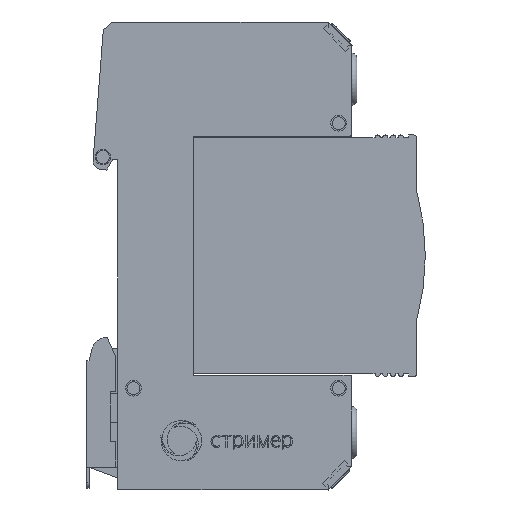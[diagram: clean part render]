
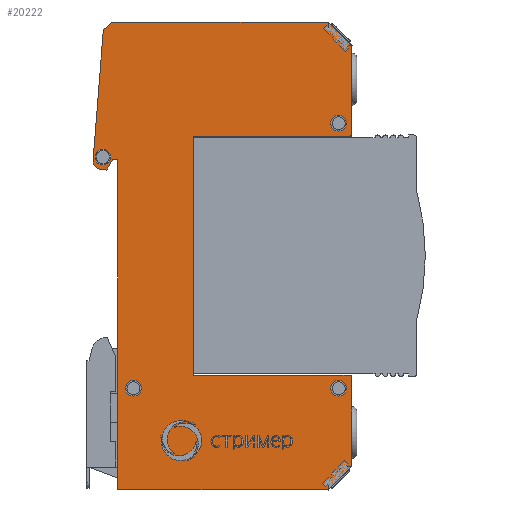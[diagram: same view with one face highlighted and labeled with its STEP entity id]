
A CAD part, front view. The second image highlights one B-rep face of the part: STEP entity #20222.
In plain terms, the highlighted planar face has unit normal (0, -1, 0).
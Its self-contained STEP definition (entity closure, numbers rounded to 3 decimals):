
#18150=CARTESIAN_POINT('',(30.,-9.,-23.));
#18151=VERTEX_POINT('',#18150);
#18189=CARTESIAN_POINT('',(0.,-9.,-23.));
#18190=VERTEX_POINT('',#18189);
#18197=CARTESIAN_POINT('',(30.,-9.,-23.));
#18198=DIRECTION('',(-1.,0.,0.));
#18199=VECTOR('',#18198,30.);
#18200=LINE('',#18197,#18199);
#18201=EDGE_CURVE('',#18151,#18190,#18200,.T.);
#18245=CARTESIAN_POINT('',(30.,-9.,23.));
#18246=VERTEX_POINT('',#18245);
#18253=CARTESIAN_POINT('',(0.,-9.,23.));
#18254=VERTEX_POINT('',#18253);
#18255=CARTESIAN_POINT('',(0.,-9.,23.));
#18256=DIRECTION('',(1.,0.,0.));
#18257=VECTOR('',#18256,30.);
#18258=LINE('',#18255,#18257);
#18259=EDGE_CURVE('',#18254,#18246,#18258,.T.);
#18384=CARTESIAN_POINT('',(-14.5,-9.,-45.));
#18385=VERTEX_POINT('',#18384);
#18386=CARTESIAN_POINT('',(26.,-9.,-45.));
#18387=VERTEX_POINT('',#18386);
#18388=CARTESIAN_POINT('',(-14.5,-9.,-45.));
#18389=DIRECTION('',(1.,0.,-0.));
#18390=VECTOR('',#18389,40.5);
#18391=LINE('',#18388,#18390);
#18392=EDGE_CURVE('',#18385,#18387,#18391,.T.);
#19054=CARTESIAN_POINT('',(-14.5,-9.,18.5));
#19055=VERTEX_POINT('',#19054);
#19056=CARTESIAN_POINT('',(-14.5,-9.,18.5));
#19057=DIRECTION('',(0.,0.,-1.));
#19058=VECTOR('',#19057,63.5);
#19059=LINE('',#19056,#19058);
#19060=EDGE_CURVE('',#19055,#18385,#19059,.T.);
#19255=CARTESIAN_POINT('',(-15.5,-9.,45.));
#19256=VERTEX_POINT('',#19255);
#19257=CARTESIAN_POINT('',(-17.29,-9.,43.498));
#19258=VERTEX_POINT('',#19257);
#19259=CARTESIAN_POINT('',(-15.5,-9.,45.));
#19260=DIRECTION('',(-0.766,0.,-0.643));
#19261=VECTOR('',#19260,2.337);
#19262=LINE('',#19259,#19261);
#19263=EDGE_CURVE('',#19256,#19258,#19262,.T.);
#19295=CARTESIAN_POINT('',(-19.273,-9.,18.306));
#19296=VERTEX_POINT('',#19295);
#19297=CARTESIAN_POINT('',(-17.29,-9.,43.498));
#19298=DIRECTION('',(-0.078,0.,-0.997));
#19299=VECTOR('',#19298,25.27);
#19300=LINE('',#19297,#19299);
#19301=EDGE_CURVE('',#19258,#19296,#19300,.T.);
#19326=CARTESIAN_POINT('',(-17.999,-9.,16.704));
#19327=VERTEX_POINT('',#19326);
#19328=CARTESIAN_POINT('',(-17.777,-9.,18.188));
#19329=DIRECTION('',(0.,-1.,0.));
#19330=DIRECTION('',(0.,0.,1.));
#19331=AXIS2_PLACEMENT_3D('',#19328,#19329,#19330);
#19332=CIRCLE('',#19331,1.5);
#19333=EDGE_CURVE('',#19296,#19327,#19332,.T.);
#19359=CARTESIAN_POINT('',(-16.632,-9.,16.5));
#19360=VERTEX_POINT('',#19359);
#19361=CARTESIAN_POINT('',(-17.999,-9.,16.704));
#19362=DIRECTION('',(0.989,0.,-0.148));
#19363=VECTOR('',#19362,1.383);
#19364=LINE('',#19361,#19363);
#19365=EDGE_CURVE('',#19327,#19360,#19364,.T.);
#19390=CARTESIAN_POINT('',(-15.5,-9.,18.5));
#19391=VERTEX_POINT('',#19390);
#19392=CARTESIAN_POINT('',(-16.632,-9.,16.5));
#19393=DIRECTION('',(0.492,0.,0.87));
#19394=VECTOR('',#19393,2.298);
#19395=LINE('',#19392,#19394);
#19396=EDGE_CURVE('',#19360,#19391,#19395,.T.);
#19421=CARTESIAN_POINT('',(-15.5,-9.,18.5));
#19422=DIRECTION('',(1.,0.,0.));
#19423=VECTOR('',#19422,1.);
#19424=LINE('',#19421,#19423);
#19425=EDGE_CURVE('',#19391,#19055,#19424,.T.);
#19443=CARTESIAN_POINT('',(30.5,-9.,-40.5));
#19444=VERTEX_POINT('',#19443);
#19445=CARTESIAN_POINT('',(26.,-9.,-45.));
#19446=DIRECTION('',(0.707,0.,0.707));
#19447=VECTOR('',#19446,6.364);
#19448=LINE('',#19445,#19447);
#19449=EDGE_CURVE('',#18387,#19444,#19448,.T.);
#19498=CARTESIAN_POINT('',(30.5,-9.,-23.5));
#19499=VERTEX_POINT('',#19498);
#19506=CARTESIAN_POINT('',(30.5,-9.,-40.5));
#19507=DIRECTION('',(0.,0.,1.));
#19508=VECTOR('',#19507,17.);
#19509=LINE('',#19506,#19508);
#19510=EDGE_CURVE('',#19444,#19499,#19509,.T.);
#19556=CARTESIAN_POINT('',(30.,-9.,-23.5));
#19557=DIRECTION('',(0.,-1.,0.));
#19558=DIRECTION('',(0.,0.,1.));
#19559=AXIS2_PLACEMENT_3D('',#19556,#19557,#19558);
#19560=CIRCLE('',#19559,0.5);
#19561=EDGE_CURVE('',#19499,#18151,#19560,.T.);
#19572=CARTESIAN_POINT('',(0.,-9.,-23.));
#19573=DIRECTION('',(0.,0.,1.));
#19574=VECTOR('',#19573,46.);
#19575=LINE('',#19572,#19574);
#19576=EDGE_CURVE('',#18190,#18254,#19575,.T.);
#19603=CARTESIAN_POINT('',(30.5,-9.,23.5));
#19604=VERTEX_POINT('',#19603);
#19611=CARTESIAN_POINT('',(30.,-9.,23.5));
#19612=DIRECTION('',(0.,-1.,0.));
#19613=DIRECTION('',(0.,0.,1.));
#19614=AXIS2_PLACEMENT_3D('',#19611,#19612,#19613);
#19615=CIRCLE('',#19614,0.5);
#19616=EDGE_CURVE('',#18246,#19604,#19615,.T.);
#19644=CARTESIAN_POINT('',(30.5,-9.,40.5));
#19645=VERTEX_POINT('',#19644);
#19652=CARTESIAN_POINT('',(30.5,-9.,23.5));
#19653=DIRECTION('',(0.,0.,1.));
#19654=VECTOR('',#19653,17.);
#19655=LINE('',#19652,#19654);
#19656=EDGE_CURVE('',#19604,#19645,#19655,.T.);
#19701=CARTESIAN_POINT('',(26.,-9.,45.));
#19702=VERTEX_POINT('',#19701);
#19703=CARTESIAN_POINT('',(30.5,-9.,40.5));
#19704=DIRECTION('',(-0.707,0.,0.707));
#19705=VECTOR('',#19704,6.364);
#19706=LINE('',#19703,#19705);
#19707=EDGE_CURVE('',#19645,#19702,#19706,.T.);
#19732=CARTESIAN_POINT('',(-17.38,-9.,17.5));
#19733=VERTEX_POINT('',#19732);
#19742=CARTESIAN_POINT('',(-18.88,-9.,19.));
#19743=VERTEX_POINT('',#19742);
#19744=CARTESIAN_POINT('',(-17.38,-9.,19.));
#19745=DIRECTION('',(0.,-1.,0.));
#19746=DIRECTION('',(-1.,0.,0.));
#19747=AXIS2_PLACEMENT_3D('',#19744,#19745,#19746);
#19748=CIRCLE('',#19747,1.5);
#19749=EDGE_CURVE('',#19733,#19743,#19748,.T.);
#19774=CARTESIAN_POINT('',(28.,-9.,24.));
#19775=VERTEX_POINT('',#19774);
#19784=CARTESIAN_POINT('',(26.5,-9.,25.5));
#19785=VERTEX_POINT('',#19784);
#19786=CARTESIAN_POINT('',(28.,-9.,25.5));
#19787=DIRECTION('',(0.,-1.,0.));
#19788=DIRECTION('',(-1.,0.,0.));
#19789=AXIS2_PLACEMENT_3D('',#19786,#19787,#19788);
#19790=CIRCLE('',#19789,1.5);
#19791=EDGE_CURVE('',#19775,#19785,#19790,.T.);
#19852=CARTESIAN_POINT('',(-11.5,-9.,-27.));
#19853=VERTEX_POINT('',#19852);
#19862=CARTESIAN_POINT('',(-13.,-9.,-25.5));
#19863=VERTEX_POINT('',#19862);
#19864=CARTESIAN_POINT('',(-11.5,-9.,-25.5));
#19865=DIRECTION('',(0.,-1.,0.));
#19866=DIRECTION('',(-1.,0.,0.));
#19867=AXIS2_PLACEMENT_3D('',#19864,#19865,#19866);
#19868=CIRCLE('',#19867,1.5);
#19869=EDGE_CURVE('',#19853,#19863,#19868,.T.);
#19894=CARTESIAN_POINT('',(28.,-9.,-27.));
#19895=VERTEX_POINT('',#19894);
#19904=CARTESIAN_POINT('',(26.5,-9.,-25.5));
#19905=VERTEX_POINT('',#19904);
#19906=CARTESIAN_POINT('',(28.,-9.,-25.5));
#19907=DIRECTION('',(0.,-1.,0.));
#19908=DIRECTION('',(-1.,0.,0.));
#19909=AXIS2_PLACEMENT_3D('',#19906,#19907,#19908);
#19910=CIRCLE('',#19909,1.5);
#19911=EDGE_CURVE('',#19895,#19905,#19910,.T.);
#20074=CARTESIAN_POINT('',(26.,-9.,45.));
#20075=DIRECTION('',(-1.,0.,0.));
#20076=VECTOR('',#20075,41.5);
#20077=LINE('',#20074,#20076);
#20078=EDGE_CURVE('',#19702,#19256,#20077,.T.);
#20157=CARTESIAN_POINT('',(0.,-9.,0.));
#20158=DIRECTION('',(0.,-1.,0.));
#20159=DIRECTION('',(0.,0.,1.));
#20160=AXIS2_PLACEMENT_3D('',#20157,#20158,#20159);
#20161=PLANE('',#20160);
#20162=ORIENTED_EDGE('',*,*,#19911,.F.);
#20163=CARTESIAN_POINT('',(28.,-9.,-25.5));
#20164=DIRECTION('',(0.,-1.,0.));
#20165=DIRECTION('',(-1.,0.,0.));
#20166=AXIS2_PLACEMENT_3D('',#20163,#20164,#20165);
#20167=CIRCLE('',#20166,1.5);
#20168=EDGE_CURVE('',#19905,#19895,#20167,.T.);
#20169=ORIENTED_EDGE('',*,*,#20168,.F.);
#20170=EDGE_LOOP('',(#20162,#20169));
#20171=FACE_BOUND('',#20170,.T.);
#20172=ORIENTED_EDGE('',*,*,#19869,.F.);
#20173=CARTESIAN_POINT('',(-11.5,-9.,-25.5));
#20174=DIRECTION('',(0.,-1.,0.));
#20175=DIRECTION('',(-1.,0.,0.));
#20176=AXIS2_PLACEMENT_3D('',#20173,#20174,#20175);
#20177=CIRCLE('',#20176,1.5);
#20178=EDGE_CURVE('',#19863,#19853,#20177,.T.);
#20179=ORIENTED_EDGE('',*,*,#20178,.F.);
#20180=EDGE_LOOP('',(#20172,#20179));
#20181=FACE_BOUND('',#20180,.T.);
#20182=ORIENTED_EDGE('',*,*,#19791,.F.);
#20183=CARTESIAN_POINT('',(28.,-9.,25.5));
#20184=DIRECTION('',(0.,-1.,0.));
#20185=DIRECTION('',(-1.,0.,0.));
#20186=AXIS2_PLACEMENT_3D('',#20183,#20184,#20185);
#20187=CIRCLE('',#20186,1.5);
#20188=EDGE_CURVE('',#19785,#19775,#20187,.T.);
#20189=ORIENTED_EDGE('',*,*,#20188,.F.);
#20190=EDGE_LOOP('',(#20182,#20189));
#20191=FACE_BOUND('',#20190,.T.);
#20192=ORIENTED_EDGE('',*,*,#19749,.F.);
#20193=CARTESIAN_POINT('',(-17.38,-9.,19.));
#20194=DIRECTION('',(0.,-1.,0.));
#20195=DIRECTION('',(-1.,0.,0.));
#20196=AXIS2_PLACEMENT_3D('',#20193,#20194,#20195);
#20197=CIRCLE('',#20196,1.5);
#20198=EDGE_CURVE('',#19743,#19733,#20197,.T.);
#20199=ORIENTED_EDGE('',*,*,#20198,.F.);
#20200=EDGE_LOOP('',(#20192,#20199));
#20201=FACE_BOUND('',#20200,.T.);
#20202=ORIENTED_EDGE('',*,*,#19263,.T.);
#20203=ORIENTED_EDGE('',*,*,#19301,.T.);
#20204=ORIENTED_EDGE('',*,*,#19333,.T.);
#20205=ORIENTED_EDGE('',*,*,#19365,.T.);
#20206=ORIENTED_EDGE('',*,*,#19396,.T.);
#20207=ORIENTED_EDGE('',*,*,#19425,.T.);
#20208=ORIENTED_EDGE('',*,*,#19060,.T.);
#20209=ORIENTED_EDGE('',*,*,#18392,.T.);
#20210=ORIENTED_EDGE('',*,*,#19449,.T.);
#20211=ORIENTED_EDGE('',*,*,#19510,.T.);
#20212=ORIENTED_EDGE('',*,*,#19561,.T.);
#20213=ORIENTED_EDGE('',*,*,#18201,.T.);
#20214=ORIENTED_EDGE('',*,*,#19576,.T.);
#20215=ORIENTED_EDGE('',*,*,#18259,.T.);
#20216=ORIENTED_EDGE('',*,*,#19616,.T.);
#20217=ORIENTED_EDGE('',*,*,#19656,.T.);
#20218=ORIENTED_EDGE('',*,*,#19707,.T.);
#20219=ORIENTED_EDGE('',*,*,#20078,.T.);
#20220=EDGE_LOOP('',(#20202,#20203,#20204,#20205,#20206,#20207,#20208,#20209,#20210,#20211,#20212,#20213,#20214,#20215,#20216,#20217,#20218,#20219));
#20221=FACE_BOUND('',#20220,.T.);
#20222=ADVANCED_FACE('',(#20171,#20181,#20191,#20201,#20221),#20161,.T.);
